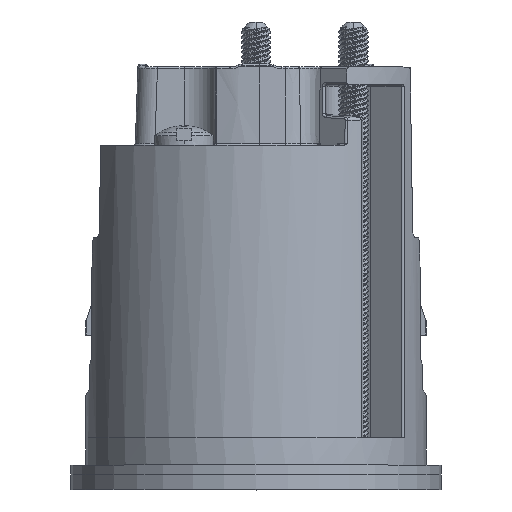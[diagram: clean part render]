
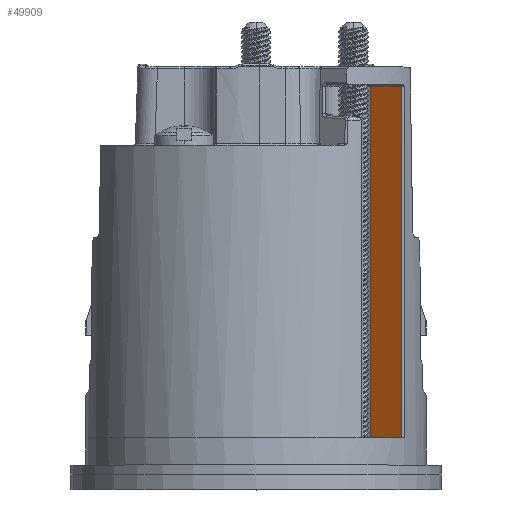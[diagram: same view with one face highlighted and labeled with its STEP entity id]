
A CAD part, top view. The second image highlights one B-rep face of the part: STEP entity #49909.
In plain terms, the highlighted planar face has unit normal (-0.616, 0, 0.788) as drawn and (0.616, 0, -0.788) by its records, which use the part's own axes.
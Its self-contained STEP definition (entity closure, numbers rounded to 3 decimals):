
#15668=DIRECTION('',(0.788,0.,0.616));
#15669=VECTOR('',#15668,4.011);
#15670=CARTESIAN_POINT('',(-14.874,-3.5,-8.58));
#15671=LINE('',#15670,#15669);
#15675=DIRECTION('',(0.,1.,0.));
#15676=VECTOR('',#15675,35.9);
#15677=CARTESIAN_POINT('',(-11.713,-3.5,-6.11));
#15678=LINE('',#15677,#15676);
#15682=DIRECTION('',(-0.788,0.,-0.616));
#15683=VECTOR('',#15682,4.011);
#15684=CARTESIAN_POINT('',(-11.713,32.4,-6.11));
#15685=LINE('',#15684,#15683);
#15689=DIRECTION('',(0.,1.,0.));
#15690=VECTOR('',#15689,35.9);
#15691=CARTESIAN_POINT('',(-14.874,-3.5,-8.58));
#15692=LINE('',#15691,#15690);
#29486=CARTESIAN_POINT('',(-11.713,32.4,-6.11));
#29487=CARTESIAN_POINT('',(-14.874,32.4,-8.58));
#29488=VERTEX_POINT('',#29486);
#29489=VERTEX_POINT('',#29487);
#32932=CARTESIAN_POINT('',(-14.874,-3.5,-8.58));
#32933=CARTESIAN_POINT('',(-11.713,-3.5,-6.11));
#32934=VERTEX_POINT('',#32932);
#32935=VERTEX_POINT('',#32933);
#49895=CARTESIAN_POINT('',(-15.056,-3.5,-8.722));
#49896=DIRECTION('',(0.616,0.,-0.788));
#49897=DIRECTION('',(0.788,0.,0.616));
#49898=AXIS2_PLACEMENT_3D('',#49895,#49896,#49897);
#49899=PLANE('',#49898);
#49900=ORIENTED_EDGE('',*,*,#48056,.T.);
#49902=ORIENTED_EDGE('',*,*,#49901,.T.);
#49904=ORIENTED_EDGE('',*,*,#49903,.T.);
#49906=ORIENTED_EDGE('',*,*,#49905,.F.);
#49907=EDGE_LOOP('',(#49900,#49902,#49904,#49906));
#49908=FACE_OUTER_BOUND('',#49907,.F.);
#48056=EDGE_CURVE('',#32934,#32935,#15671,.T.);
#49901=EDGE_CURVE('',#32935,#29488,#15678,.T.);
#49903=EDGE_CURVE('',#29488,#29489,#15685,.T.);
#49905=EDGE_CURVE('',#32934,#29489,#15692,.T.);
#49909=ADVANCED_FACE('',(#49908),#49899,.T.);
